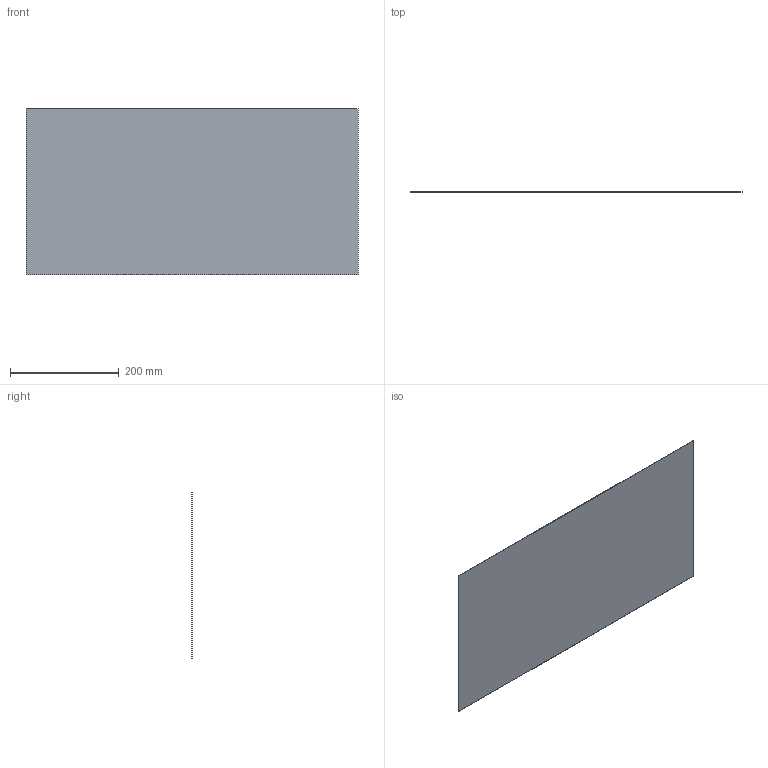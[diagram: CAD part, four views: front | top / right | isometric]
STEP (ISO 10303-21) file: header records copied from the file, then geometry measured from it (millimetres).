
FILE_DESCRIPTION (( 'STEP AP214' ), '1' );
FILE_NAME ('Polycarbonate_Sheet_12in_X_24in_X_0.030in-FRC2026-KOPPC0030x12x24_E.step', '2025-12-23T15:52:53', ( '' ), ( '' ), 'SwSTEP 2.0', 'SolidWorks 2026', '' );
FILE_SCHEMA (( 'AUTOMOTIVE_DESIGN' ));
Length unit declared in the file: inch
Products named in the file (1): Polycarbonate_Sheet_12in_X_24in_X_0.030in-FRC2026-KOPPC0030x12x24_E
Bounding box: 609.6 x 0.76 x 304.8 mm (x, y, z)
Volume: 141584.2 mm3; surface area: 373005.7 mm2
Topology: 1 solids, 1 shells, 6 faces, 12 edges, 8 vertices
Faces by surface type: plane 6
Entity records: 183 total; most frequent: CARTESIAN_POINT 27, DIRECTION 26, ORIENTED_EDGE 24, EDGE_CURVE 12, VECTOR 12, LINE 12, VERTEX_POINT 8, AXIS2_PLACEMENT_3D 7
